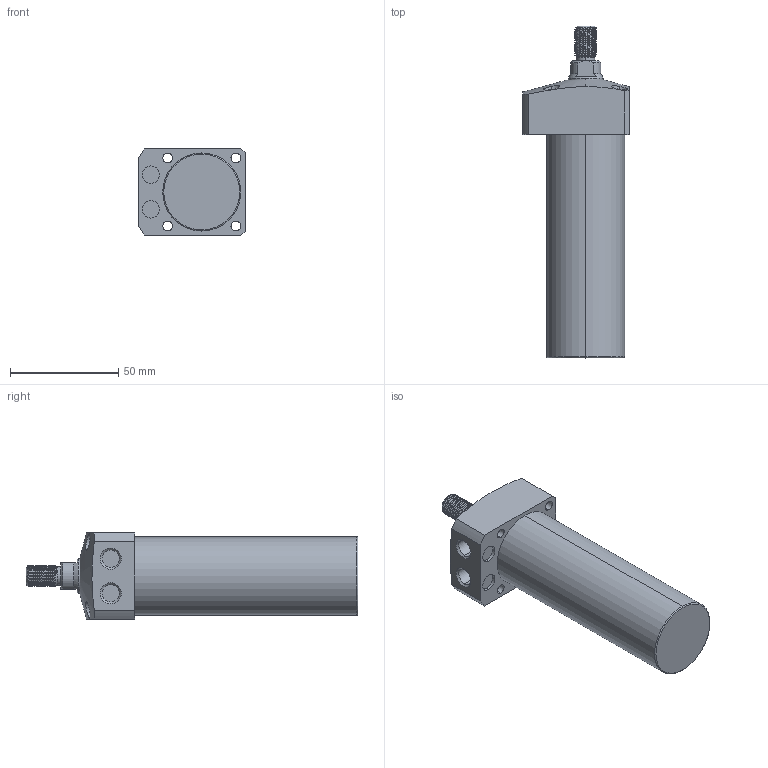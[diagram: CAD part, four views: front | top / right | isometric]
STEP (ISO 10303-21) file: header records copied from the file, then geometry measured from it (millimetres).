
FILE_DESCRIPTION (( 'STEP AP203' ), '1' );
FILE_NAME ('CLL-036CT-080.STEP', '2020-01-08T08:50:52', ( '' ), ( '' ), 'SwSTEP 2.0', 'SolidWorks 2015', '' );
FILE_SCHEMA (( 'CONFIG_CONTROL_DESIGN' ));
Length unit declared in the file: millimetre
Products named in the file (1): CLL-036CT-080
Bounding box: 49 x 153 x 40 mm (x, y, z)
Volume: 147742.9 mm3; surface area: 22306.9 mm2
Topology: 1 solids, 1 shells, 103 faces, 256 edges, 166 vertices
Faces by surface type: cylinder 61, plane 23, cone 15, torus 2, bspline 2
Entity records: 5006 total; most frequent: CARTESIAN_POINT 2610, ORIENTED_EDGE 512, DIRECTION 457, EDGE_CURVE 256, AXIS2_PLACEMENT_3D 184, VERTEX_POINT 166, EDGE_LOOP 122, FACE_OUTER_BOUND 103
